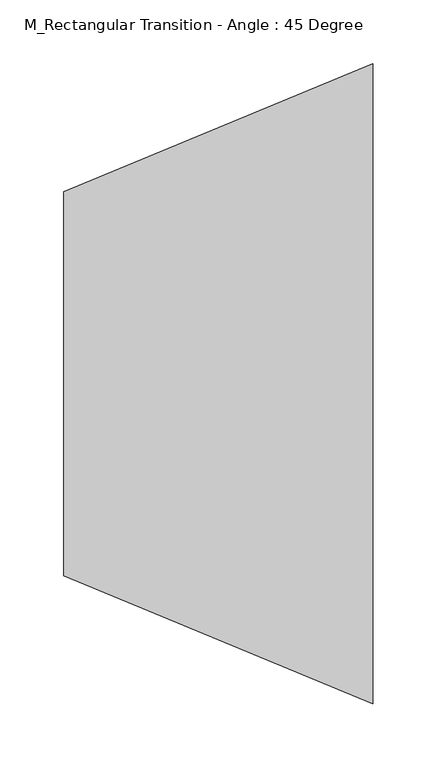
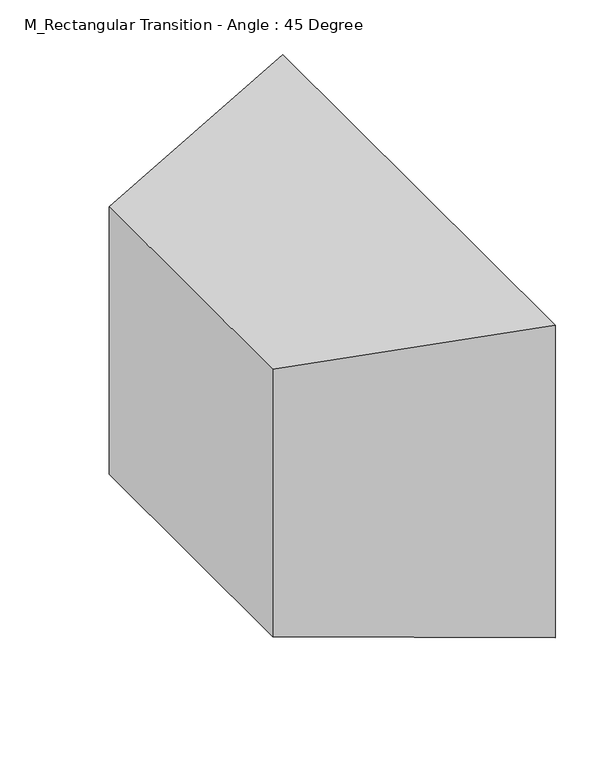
"""IFC4 building model written with IfcOpenShell, lengths in millimetres: duct fitting geometry, M_Rectangular Transition - Angle : 45 Degree."""

import ifcopenshell
import ifcopenshell.guid

model = None  # the IFC model being written
_history = None  # IfcOwnerHistory: only IFC2X3 demands one
_inside = {}  # id of a spatial element -> (the spatial element, [elements in it])
_under = {}  # id of a project, library or spatial element -> (it, [spatial elements below it])
_declared = {}  # id of a project -> (the project, [libraries it declares])
_typed = {}  # id of a type object -> (the type object, [elements of that type])
_made_of = {}  # id of a material, layer set ... -> (it, [elements and type objects made of it])


def new_model(schema):
    """Start an empty IFC model of exactly this schema.

    Asked for "IFC4X3", IfcOpenShell would pick the latest addendum, in which some entities
    have other attributes; the version numbers below select the first issue.
    IFC2X3 requires an IfcOwnerHistory on every rooted entity: one is made here for all.
    """
    global model, _history
    if schema == "IFC4X3":
        model = ifcopenshell.file(schema_version=(4, 3, 0, 0))
    else:
        model = ifcopenshell.file(schema=schema)
    _inside.clear()
    _under.clear()
    _declared.clear()
    _typed.clear()
    _made_of.clear()
    _history = None
    if model.schema == "IFC2X3":
        org = make("IfcOrganization", Name="unknown")
        user = make(
            "IfcPersonAndOrganization",
            ThePerson=make("IfcPerson", FamilyName="unknown"),
            TheOrganization=org,
        )
        app = make(
            "IfcApplication",
            ApplicationDeveloper=org,
            Version="unknown",
            ApplicationFullName="unknown",
            ApplicationIdentifier="unknown",
        )
        _history = make(
            "IfcOwnerHistory",
            OwningUser=user,
            OwningApplication=app,
            ChangeAction="ADDED",
            CreationDate=0,
        )
    return model


def make(cls, **values):
    """One entity of the class cls with the attributes given. An attribute that is None is left unset."""
    return model.create_entity(
        cls, **{name: value for name, value in values.items() if value is not None}
    )


def rooted(cls, **values):
    """An entity with a GlobalId (a new one), such as an element, a storey or a relation."""
    return make(cls, GlobalId=ifcopenshell.guid.new(), OwnerHistory=_history, **values)


def si_unit(unit_type, name, prefix=None):
    """IfcSIUnit, for example si_unit("LENGTHUNIT", "METRE", prefix="MILLI")."""
    return make("IfcSIUnit", UnitType=unit_type, Prefix=prefix, Name=name)


def assignment(units):
    """IfcUnitAssignment: the units of a project."""
    return None if units is None else make("IfcUnitAssignment", Units=units)


def point(xyz):
    """IfcCartesianPoint."""
    return None if xyz is None else make("IfcCartesianPoint", Coordinates=xyz)


def direction(xyz):
    """IfcDirection."""
    return None if xyz is None else make("IfcDirection", DirectionRatios=xyz)


def frame(location, z_axis=None, x_axis=None):
    """IfcAxis2Placement3D, a coordinate frame: its origin and axes. An axis left out is left unset."""
    return make(
        "IfcAxis2Placement3D",
        Location=point(location),
        Axis=direction(z_axis),
        RefDirection=direction(x_axis),
    )


def origin():
    """The frame at (0, 0, 0) with its axes left unset."""
    return frame((0.0, 0.0, 0.0))


def place(relative_to, where):
    """IfcLocalPlacement: puts the frame where relative to a parent placement (None: the world)."""
    return make(
        "IfcLocalPlacement", PlacementRelTo=relative_to, RelativePlacement=where
    )


def context(
    kind, dimensions, precision=None, world=None, true_north=None, identifier=None
):
    """IfcGeometricRepresentationContext, for example the 3D "Model" context."""
    return make(
        "IfcGeometricRepresentationContext",
        ContextIdentifier=identifier,
        ContextType=kind,
        CoordinateSpaceDimension=dimensions,
        Precision=precision,
        WorldCoordinateSystem=world,
        TrueNorth=true_north,
    )


def project(units=None, contexts=None):
    """IfcProject with its units and contexts."""
    return rooted(
        "IfcProject",
        Name="project",
        RepresentationContexts=contexts,
        UnitsInContext=assignment(units),
    )


def spatial(cls, under=None, at=None, **own):
    """A site, building, storey or space (cls), placed at a placement, below another one or the project."""
    s = rooted(cls, ObjectPlacement=at, **own)
    if under is not None:
        _under.setdefault(under.id(), (under, []))[1].append(s)
    return s


def faces_of(points, faces, orient=None, outer=None):
    """IfcFace entities. A face is a list of loops; a loop is a list of indices into points, from 0.

    orient and outer hold one flag for each loop. By default every Orientation is true, the
    first loop of a face is its IfcFaceOuterBound and the others are IfcFaceBound.
    """
    made = []
    for i, loops in enumerate(faces):
        bounds = []
        for j, loop in enumerate(loops):
            is_outer = j == 0 if outer is None else outer[i][j]
            bounds.append(
                make(
                    "IfcFaceOuterBound" if is_outer else "IfcFaceBound",
                    Bound=make("IfcPolyLoop", Polygon=[points[k] for k in loop]),
                    Orientation=True if orient is None else orient[i][j],
                )
            )
        made.append(make("IfcFace", Bounds=bounds))
    return made


def faceted_brep(points, faces, orient=None, outer=None, voids=None):
    """IfcFacetedBrep: a solid bounded by flat faces; with voids (closed shells), ...WithVoids."""
    shared = [point(p) for p in points]
    hull = make("IfcClosedShell", CfsFaces=faces_of(shared, faces, orient, outer))
    if voids is None:
        return make("IfcFacetedBrep", Outer=hull)
    return make(
        "IfcFacetedBrepWithVoids",
        Outer=hull,
        Voids=[
            make(cls, CfsFaces=faces_of(shared, fs, o, b)) for cls, fs, o, b in voids
        ],
    )


def shape(context_of_items, identifier, shape_type, items):
    """IfcShapeRepresentation: the items that make up one representation, for example the "Body"."""
    return make(
        "IfcShapeRepresentation",
        ContextOfItems=context_of_items,
        RepresentationIdentifier=identifier,
        RepresentationType=shape_type,
        Items=items,
    )


def source(mapping_origin, context_of_items, identifier, shape_type, items):
    """IfcRepresentationMap: a shape defined once, which mapped items show again and again."""
    return make(
        "IfcRepresentationMap",
        MappingOrigin=mapping_origin,
        MappedRepresentation=shape(context_of_items, identifier, shape_type, items),
    )


def transform(
    local_origin,
    x_axis=None,
    y_axis=None,
    z_axis=None,
    scale=None,
    scale2=None,
    scale3=None,
    uniform=True,
):
    """IfcCartesianTransformationOperator3D, or its non-uniform kind. x_axis, y_axis, z_axis: its Axis1, 2, 3."""
    if uniform:
        return make(
            "IfcCartesianTransformationOperator3D",
            Axis1=direction(x_axis),
            Axis2=direction(y_axis),
            LocalOrigin=point(local_origin),
            Scale=scale,
            Axis3=direction(z_axis),
        )
    return make(
        "IfcCartesianTransformationOperator3DnonUniform",
        Axis1=direction(x_axis),
        Axis2=direction(y_axis),
        LocalOrigin=point(local_origin),
        Scale=scale,
        Axis3=direction(z_axis),
        Scale2=scale2,
        Scale3=scale3,
    )


def mapped(mapping_source, mapping_target):
    """IfcMappedItem: shows the shape of a source again, moved by a transform."""
    return make(
        "IfcMappedItem", MappingSource=mapping_source, MappingTarget=mapping_target
    )


def made_of(thing, what):
    """Note that an element or type object is made of a material, layer set ...; save() writes the relation."""
    if what is not None:
        _made_of.setdefault(what.id(), (what, []))[1].append(thing)
    return thing


def element(
    cls,
    number,
    at=None,
    inside=None,
    cuts=None,
    type_object=None,
    material=None,
    context=None,
    identifier="Body",
    shape_type=None,
    held_by="IfcProductDefinitionShape",
    body=None,
    shapes=None,
    **own,
):
    """One element of the class cls, such as IfcWall. Its Tag is "e" and its number.

    at: its placement. inside: the storey or other place that contains it. cuts: it is an
    opening in that element (IfcRelVoidsElement). A single representation is given by context,
    identifier, shape_type and body (its items); several are given by shapes. held_by: the class
    of the entity that holds the representations. save() writes the other relations.
    """
    e = rooted(cls, Tag="e%d" % number, ObjectPlacement=at, **own)
    if body is not None:
        shapes = [shape(context, identifier, shape_type, body)]
    if shapes is not None:
        e.Representation = make(held_by, Representations=shapes)
    if inside is not None:
        _inside.setdefault(inside.id(), (inside, []))[1].append(e)
    if cuts is not None:
        rooted(
            "IfcRelVoidsElement", RelatingBuildingElement=cuts, RelatedOpeningElement=e
        )
    if type_object is not None:
        _typed.setdefault(type_object.id(), (type_object, []))[1].append(e)
    return made_of(e, material)


def aggregate(whole, parts):
    """IfcRelAggregates: a whole, such as a stair, and the parts it consists of."""
    return rooted("IfcRelAggregates", RelatingObject=whole, RelatedObjects=parts)


def save(model, path):
    """Write the relations noted so far, then the file.

    IfcRelAggregates (storeys below a building ...), IfcRelContainedInSpatialStructure (elements
    in a storey), IfcRelDefinesByType, IfcRelAssociatesMaterial and IfcRelDeclares: one each for
    every whole, place, type object, material and project.
    """
    for whole, parts in _under.values():
        aggregate(whole, parts)
    for where, things in _inside.values():
        rooted(
            "IfcRelContainedInSpatialStructure",
            RelatedElements=things,
            RelatingStructure=where,
        )
    for kind, things in _typed.values():
        rooted("IfcRelDefinesByType", RelatedObjects=things, RelatingType=kind)
    for what, things in _made_of.values():
        rooted("IfcRelAssociatesMaterial", RelatedObjects=things, RelatingMaterial=what)
    for by, libraries in _declared.values():
        rooted("IfcRelDeclares", RelatingContext=by, RelatedDefinitions=libraries)
    model.write(path)


def m_rectangular_transition_angle_45_degree_a01fcfa2(model_context):
    return source(origin(), model_context, "Body", "Brep", [
        faceted_brep([(241.4213562, -250.0, 175.0), (241.4213562, -250.0, -175.0), (241.4213562, 250.0, -175.0), (241.4213562, 250.0, 175.0), (0.0, -150.0, 150.0), (0.0, 150.0, 150.0), (0.0, 150.0, -150.0), (0.0, -150.0, -150.0)], [[[0, 1, 2, 3]], [[4, 5, 6, 7]], [[4, 7, 1, 0]], [[7, 6, 2, 1]], [[6, 5, 3, 2]], [[5, 4, 0, 3]]]),
        faceted_brep([(241.4213562, -250.0, 175.0), (241.4213562, -250.0, -175.0), (241.4213562, 250.0, -175.0), (241.4213562, 250.0, 175.0), (0.0, -150.0, 150.0), (0.0, 150.0, 150.0), (0.0, 150.0, -150.0), (0.0, -150.0, -150.0)], [[[0, 1, 2, 3]], [[4, 5, 6, 7]], [[4, 7, 1, 0]], [[7, 6, 2, 1]], [[6, 5, 3, 2]], [[5, 4, 0, 3]]]),
        faceted_brep([(241.4213562, -250.0, 175.0), (241.4213562, -250.0, -175.0), (241.4213562, 250.0, -175.0), (241.4213562, 250.0, 175.0), (0.0, -150.0, 150.0), (0.0, 150.0, 150.0), (0.0, 150.0, -150.0), (0.0, -150.0, -150.0)], [[[0, 1, 2, 3]], [[4, 5, 6, 7]], [[4, 7, 1, 0]], [[7, 6, 2, 1]], [[6, 5, 3, 2]], [[5, 4, 0, 3]]]),
    ])


if __name__ == "__main__":
    model = new_model("IFC4")
    model_context = context("Model", 3, world=origin())
    ifc_project = project(units=[si_unit("LENGTHUNIT", "METRE", prefix="MILLI")], contexts=[model_context])
    site = spatial("IfcSite", under=ifc_project)
    building = spatial("IfcBuilding", under=site)
    placement = place(None, origin())
    m_rectangular_transition_angle_45_degree_shape = m_rectangular_transition_angle_45_degree_a01fcfa2(model_context)
    element("IfcDuctFitting", 1, ObjectType="M_Rectangular Transition - Angle : 45 Degree", at=placement, inside=building, context=model_context, shape_type="MappedRepresentation", body=[
        mapped(m_rectangular_transition_angle_45_degree_shape, transform((0.0, 0.0, 0.0), x_axis=(1.0, 0.0, 0.0), y_axis=(0.0, 1.0, 0.0), z_axis=(0.0, 0.0, 1.0))),
    ])
    save(model, "model.ifc")
